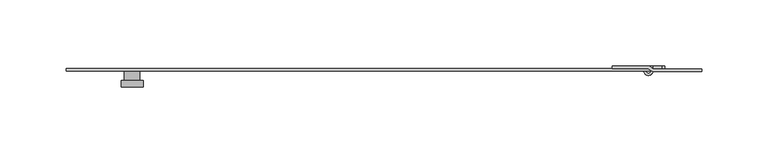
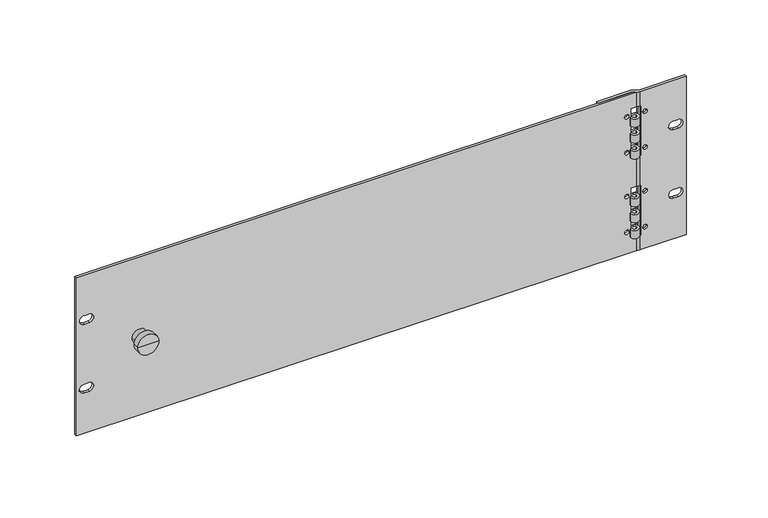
"""IFC4 building model written with IfcOpenShell, lengths in millimetres: proxy geometry, EV 12V 8A F3U : EV 12V 8A F3U."""

from ifc_helpers import new_model, si_unit, point, frame, frame_2d, origin, place, context, project, spatial, polyline, circle_curve, trimmed, segment, composite_curve, outline, extrude, source, transform, mapped, element, save
from ifc_brep_helpers import plane_surface, cylinder_surface, revolved_surface, advanced_brep


def electrical_equipment_e9eb0355(model_context):
    return source(origin(), model_context, "Body", "SolidModel", [
        advanced_brep(
        [(-437.0786498, 0.0, 0.0), (-425.4294198, 0.0, 0.0), (-425.4294198, -7.0, 0.0), (-437.0786498, -7.0, 0.0), (-431.2540348, 0.0, 0.0), (-439.5643578, -12.0, 0.0), (-422.9437118, -12.0, 0.0), (-431.2540348, -12.0, 0.0), (-439.5643578, -7.0, 0.0), (-422.9437118, -7.0, 0.0)],
        [
            (0, 1, circle_curve(frame((-431.2540348, 0.0, 0.0), z_axis=(0.0, -1.0, 0.0), x_axis=(1.0, 0.0, 0.0)), 5.824615)),
            (1, 2),
            (2, 3, circle_curve(frame((-431.2540348, -7.0, 0.0), z_axis=(0.0, 1.0, 0.0), x_axis=(1.0, 0.0, 0.0)), 5.824615)),
            (3, 0),
            (1, 0, circle_curve(frame((-431.2540348, 0.0, 0.0), z_axis=(0.0, -1.0, 0.0), x_axis=(1.0, 0.0, 0.0)), 5.824615)),
            (3, 2, circle_curve(frame((-431.2540348, -7.0, 0.0), z_axis=(0.0, 1.0, 0.0), x_axis=(1.0, 0.0, 0.0)), 5.824615)),
            (4, 1),
            (0, 4),
            (5, 6, circle_curve(frame((-431.2540348, -12.0, 0.0), z_axis=(0.0, -1.0, 0.0), x_axis=(1.0, 0.0, 0.0)), 8.310323)),
            (6, 7),
            (7, 5),
            (6, 5, circle_curve(frame((-431.2540348, -12.0, 0.0), z_axis=(0.0, -1.0, 0.0), x_axis=(1.0, 0.0, 0.0)), 8.310323)),
            (8, 9, circle_curve(frame((-431.2540348, -7.0, 0.0), z_axis=(0.0, -1.0, 0.0), x_axis=(1.0, 0.0, 0.0)), 8.310323)),
            (9, 6),
            (5, 8),
            (9, 8, circle_curve(frame((-431.2540348, -7.0, 0.0), z_axis=(0.0, -1.0, 0.0), x_axis=(1.0, 0.0, 0.0)), 8.310323)),
            (2, 9),
            (8, 3),
        ],
        [
            cylinder_surface(frame((-431.2540348, -12.3877727, 0.0), z_axis=(0.0, 1.0, 0.0), x_axis=(1.0, 0.0, 0.0)), 5.824615),
            plane_surface(frame((-431.2540348, 0.0, 0.0), z_axis=(0.0, 1.0, 0.0), x_axis=(1.0, 0.0, 0.0))),
            plane_surface(frame((-431.2540348, -12.0, 0.0), z_axis=(0.0, -1.0, 0.0), x_axis=(1.0, 0.0, 0.0))),
            cylinder_surface(frame((-431.2540348, -12.3877727, 0.0), z_axis=(0.0, 1.0, 0.0), x_axis=(1.0, 0.0, 0.0)), 8.310323),
            plane_surface(frame((-431.2540348, -7.0, 0.0), z_axis=(0.0, 1.0, 0.0), x_axis=(1.0, 0.0, 0.0))),
        ],
        [
            (0, [[1, 2, 3, 4]]),
            (0, [[5, -4, 6, -2]]),
            (1, [[7, -1, 8]]),
            (1, [[-8, -5, -7]]),
            (2, [[9, 10, 11]]),
            (2, [[12, -11, -10]]),
            (3, [[13, 14, -9, 15]]),
            (3, [[16, -15, -12, -14]]),
            (4, [[-3, 17, -13, 18]]),
            (4, [[-6, -18, -16, -17]]),
        ],
    ),
        extrude(outline(composite_curve([segment(trimmed(circle_curve(frame_2d((-40.5119259, 0.2188638)), 3.4933477), [point((-37.0185782, 0.2188638))], [point((-44.0052735, 0.2188638))], False, "CARTESIAN"), True, "CONTINUOUS"), segment(trimmed(circle_curve(frame_2d((-40.5119259, 0.2188638)), 3.4933477), [point((-44.0052735, 0.2188638))], [point((-37.0185782, 0.2188638))], False, "CARTESIAN"), True, "CONTINUOUS")], self_intersect=False), holes=[composite_curve([segment(trimmed(circle_curve(frame_2d((-40.4945556, 0.2090982)), 1.4915613), [point((-39.0029943, 0.2090982))], [point((-41.9861169, 0.2090982))], True, "CARTESIAN"), True, "CONTINUOUS"), segment(trimmed(circle_curve(frame_2d((-40.4945556, 0.2090982)), 1.4915613), [point((-41.9861169, 0.2090982))], [point((-39.0029943, 0.2090982))], True, "CARTESIAN"), True, "CONTINUOUS")], self_intersect=False)]), frame((0.0, 0.0, -26.5833333), z_axis=(0.0, 0.0, 1.0), x_axis=(1.0, 0.0, 0.0)), (0.0, 0.0, 1.0), 6.6666667),
        extrude(outline(composite_curve([segment(trimmed(circle_curve(frame_2d((-40.5119259, 0.2188638)), 3.4933477), [point((-37.0185782, 0.2188638))], [point((-44.0052735, 0.2188638))], False, "CARTESIAN"), True, "CONTINUOUS"), segment(trimmed(circle_curve(frame_2d((-40.5119259, 0.2188638)), 3.4933477), [point((-44.0052735, 0.2188638))], [point((-37.0185782, 0.2188638))], False, "CARTESIAN"), True, "CONTINUOUS")], self_intersect=False), holes=[composite_curve([segment(trimmed(circle_curve(frame_2d((-40.4945556, 0.2090982)), 1.4915613), [point((-39.0029943, 0.2090982))], [point((-41.9861169, 0.2090982))], True, "CARTESIAN"), True, "CONTINUOUS"), segment(trimmed(circle_curve(frame_2d((-40.4945556, 0.2090982)), 1.4915613), [point((-41.9861169, 0.2090982))], [point((-39.0029943, 0.2090982))], True, "CARTESIAN"), True, "CONTINUOUS")], self_intersect=False)]), frame((0.0, 0.0, -39.9166667), z_axis=(0.0, 0.0, 1.0), x_axis=(1.0, 0.0, 0.0)), (0.0, 0.0, 1.0), 6.6666667),
        extrude(outline(composite_curve([segment(trimmed(circle_curve(frame_2d((-40.5119259, 0.2188638)), 3.4933477), [point((-37.0185782, 0.2188638))], [point((-44.0052735, 0.2188638))], False, "CARTESIAN"), True, "CONTINUOUS"), segment(trimmed(circle_curve(frame_2d((-40.5119259, 0.2188638)), 3.4933477), [point((-44.0052735, 0.2188638))], [point((-37.0185782, 0.2188638))], False, "CARTESIAN"), True, "CONTINUOUS")], self_intersect=False), holes=[composite_curve([segment(trimmed(circle_curve(frame_2d((-40.4945556, 0.2090982)), 1.4915613), [point((-39.0029943, 0.2090982))], [point((-41.9861169, 0.2090982))], True, "CARTESIAN"), True, "CONTINUOUS"), segment(trimmed(circle_curve(frame_2d((-40.4945556, 0.2090982)), 1.4915613), [point((-41.9861169, 0.2090982))], [point((-39.0029943, 0.2090982))], True, "CARTESIAN"), True, "CONTINUOUS")], self_intersect=False)]), frame((0.0, 0.0, -53.25), z_axis=(0.0, 0.0, 1.0), x_axis=(1.0, 0.0, 0.0)), (0.0, 0.0, 1.0), 6.6666667),
        extrude(outline(composite_curve([segment(polyline([(-53.25, -40.5), (-53.25, -30.25)]), True, "CONTINUOUS"), segment(trimmed(circle_curve(frame_2d((-51.25, -30.25)), 2.0), [point((-53.25, -30.25))], [point((-51.25, -28.25))], False, "CARTESIAN"), True, "CONTINUOUS"), segment(polyline([(-51.25, -28.25), (-15.25, -28.25)]), True, "CONTINUOUS"), segment(trimmed(circle_curve(frame_2d((-15.25, -30.25)), 2.0), [point((-15.25, -28.25))], [point((-13.25, -30.25))], False, "CARTESIAN"), True, "CONTINUOUS"), segment(polyline([(-13.25, -30.25), (-13.25, -36.75), (-19.9166667, -36.75), (-19.9166667, -40.5), (-26.5833333, -40.5), (-26.5833333, -36.75), (-33.25, -36.75), (-33.25, -40.5), (-39.9166667, -40.5), (-39.9166667, -36.75), (-46.5833333, -36.75), (-46.5833333, -40.5), (-53.25, -40.5)]), True, "CONTINUOUS")], self_intersect=False), holes=[composite_curve([segment(trimmed(circle_curve(frame_2d((-18.2548214, -32.5012955)), 1.7100649), [point((-18.2548214, -30.7912306))], [point((-18.2548214, -34.2113605))], True, "CARTESIAN"), True, "CONTINUOUS"), segment(trimmed(circle_curve(frame_2d((-18.2548214, -32.5012955)), 1.7100649), [point((-18.2548214, -34.2113605))], [point((-18.2548214, -30.7912306))], True, "CARTESIAN"), True, "CONTINUOUS")], self_intersect=False), composite_curve([segment(trimmed(circle_curve(frame_2d((-48.2451786, -32.5012955)), 1.7100649), [point((-48.2451786, -30.7912306))], [point((-48.2451786, -34.2113605))], True, "CARTESIAN"), True, "CONTINUOUS"), segment(trimmed(circle_curve(frame_2d((-48.2451786, -32.5012955)), 1.7100649), [point((-48.2451786, -34.2113605))], [point((-48.2451786, -30.7912306))], True, "CARTESIAN"), True, "CONTINUOUS")], self_intersect=False), composite_curve([segment(trimmed(circle_curve(frame_2d((-33.25, -32.5012955)), 1.7100649), [point((-33.25, -30.7912306))], [point((-33.25, -34.2113605))], True, "CARTESIAN"), True, "CONTINUOUS"), segment(trimmed(circle_curve(frame_2d((-33.25, -32.5012955)), 1.7100649), [point((-33.25, -34.2113605))], [point((-33.25, -30.7912306))], True, "CARTESIAN"), True, "CONTINUOUS")], self_intersect=False)]), frame((0.0, 1.701903, 0.0), z_axis=(0.0, 1.0, 0.0), x_axis=(0.0, 0.0, 1.0)), (0.0, 0.0, 1.0), 2.0),
        extrude(outline(composite_curve([segment(trimmed(circle_curve(frame_2d((-40.5119259, 0.2188638)), 3.4933477), [point((-37.0185782, 0.2188638))], [point((-44.0052735, 0.2188638))], False, "CARTESIAN"), True, "CONTINUOUS"), segment(trimmed(circle_curve(frame_2d((-40.5119259, 0.2188638)), 3.4933477), [point((-44.0052735, 0.2188638))], [point((-37.0185782, 0.2188638))], False, "CARTESIAN"), True, "CONTINUOUS")], self_intersect=False), holes=[composite_curve([segment(trimmed(circle_curve(frame_2d((-40.4945556, 0.2090982)), 1.4915613), [point((-39.0029943, 0.2090982))], [point((-41.9861169, 0.2090982))], True, "CARTESIAN"), True, "CONTINUOUS"), segment(trimmed(circle_curve(frame_2d((-40.4945556, 0.2090982)), 1.4915613), [point((-41.9861169, 0.2090982))], [point((-39.0029943, 0.2090982))], True, "CARTESIAN"), True, "CONTINUOUS")], self_intersect=False)]), frame((0.0, 0.0, 39.9166667), z_axis=(0.0, 0.0, 1.0), x_axis=(1.0, 0.0, 0.0)), (0.0, 0.0, 1.0), 6.6666667),
        extrude(outline(composite_curve([segment(trimmed(circle_curve(frame_2d((-40.5119259, 0.2188638)), 3.4933477), [point((-37.0185782, 0.2188638))], [point((-44.0052735, 0.2188638))], False, "CARTESIAN"), True, "CONTINUOUS"), segment(trimmed(circle_curve(frame_2d((-40.5119259, 0.2188638)), 3.4933477), [point((-44.0052735, 0.2188638))], [point((-37.0185782, 0.2188638))], False, "CARTESIAN"), True, "CONTINUOUS")], self_intersect=False), holes=[composite_curve([segment(trimmed(circle_curve(frame_2d((-40.4945556, 0.2090982)), 1.4915613), [point((-39.0029943, 0.2090982))], [point((-41.9861169, 0.2090982))], True, "CARTESIAN"), True, "CONTINUOUS"), segment(trimmed(circle_curve(frame_2d((-40.4945556, 0.2090982)), 1.4915613), [point((-41.9861169, 0.2090982))], [point((-39.0029943, 0.2090982))], True, "CARTESIAN"), True, "CONTINUOUS")], self_intersect=False)]), frame((0.0, 0.0, 26.5833333), z_axis=(0.0, 0.0, 1.0), x_axis=(1.0, 0.0, 0.0)), (0.0, 0.0, 1.0), 6.6666667),
        extrude(outline(composite_curve([segment(trimmed(circle_curve(frame_2d((-40.5119259, 0.2188638)), 3.4933477), [point((-37.0185782, 0.2188638))], [point((-44.0052735, 0.2188638))], False, "CARTESIAN"), True, "CONTINUOUS"), segment(trimmed(circle_curve(frame_2d((-40.5119259, 0.2188638)), 3.4933477), [point((-44.0052735, 0.2188638))], [point((-37.0185782, 0.2188638))], False, "CARTESIAN"), True, "CONTINUOUS")], self_intersect=False), holes=[composite_curve([segment(trimmed(circle_curve(frame_2d((-40.4945556, 0.2090982)), 1.4915613), [point((-39.0029943, 0.2090982))], [point((-41.9861169, 0.2090982))], True, "CARTESIAN"), True, "CONTINUOUS"), segment(trimmed(circle_curve(frame_2d((-40.4945556, 0.2090982)), 1.4915613), [point((-41.9861169, 0.2090982))], [point((-39.0029943, 0.2090982))], True, "CARTESIAN"), True, "CONTINUOUS")], self_intersect=False)]), frame((0.0, 0.0, 13.25), z_axis=(0.0, 0.0, 1.0), x_axis=(1.0, 0.0, 0.0)), (0.0, 0.0, 1.0), 6.6666667),
        extrude(outline(composite_curve([segment(polyline([(13.25, -40.5), (13.25, -30.25)]), True, "CONTINUOUS"), segment(trimmed(circle_curve(frame_2d((15.25, -30.25)), 2.0), [point((13.25, -30.25))], [point((15.25, -28.25))], False, "CARTESIAN"), True, "CONTINUOUS"), segment(polyline([(15.25, -28.25), (51.25, -28.25)]), True, "CONTINUOUS"), segment(trimmed(circle_curve(frame_2d((51.25, -30.25)), 2.0), [point((51.25, -28.25))], [point((53.25, -30.25))], False, "CARTESIAN"), True, "CONTINUOUS"), segment(polyline([(53.25, -30.25), (53.25, -36.75), (46.5833333, -36.75), (46.5833333, -40.5), (39.9166667, -40.5), (39.9166667, -36.75), (33.25, -36.75), (33.25, -40.5), (26.5833333, -40.5), (26.5833333, -36.75), (19.9166667, -36.75), (19.9166667, -40.5), (13.25, -40.5)]), True, "CONTINUOUS")], self_intersect=False), holes=[composite_curve([segment(trimmed(circle_curve(frame_2d((48.2451786, -32.5012955)), 1.7100649), [point((48.2451786, -30.7912306))], [point((48.2451786, -34.2113605))], True, "CARTESIAN"), True, "CONTINUOUS"), segment(trimmed(circle_curve(frame_2d((48.2451786, -32.5012955)), 1.7100649), [point((48.2451786, -34.2113605))], [point((48.2451786, -30.7912306))], True, "CARTESIAN"), True, "CONTINUOUS")], self_intersect=False), composite_curve([segment(trimmed(circle_curve(frame_2d((18.2548214, -32.5012955)), 1.7100649), [point((18.2548214, -30.7912306))], [point((18.2548214, -34.2113605))], True, "CARTESIAN"), True, "CONTINUOUS"), segment(trimmed(circle_curve(frame_2d((18.2548214, -32.5012955)), 1.7100649), [point((18.2548214, -34.2113605))], [point((18.2548214, -30.7912306))], True, "CARTESIAN"), True, "CONTINUOUS")], self_intersect=False), composite_curve([segment(trimmed(circle_curve(frame_2d((33.25, -32.5012955)), 1.7100649), [point((33.25, -30.7912306))], [point((33.25, -34.2113605))], True, "CARTESIAN"), True, "CONTINUOUS"), segment(trimmed(circle_curve(frame_2d((33.25, -32.5012955)), 1.7100649), [point((33.25, -34.2113605))], [point((33.25, -30.7912306))], True, "CARTESIAN"), True, "CONTINUOUS")], self_intersect=False)]), frame((0.0, 1.701903, 0.0), z_axis=(0.0, 1.0, 0.0), x_axis=(0.0, 0.0, 1.0)), (0.0, 0.0, 1.0), 2.0),
        advanced_brep(
        [(0.0, -0.298097, -66.0), (0.0, -0.298097, 66.0), (-36.4715729, -0.298097, 66.0), (-36.4715729, -0.298097, 54.1), (-35.6, -0.298097, 54.1), (-35.6, -0.298097, 12.4), (-36.4715729, -0.298097, 12.4), (-36.4715729, -0.298097, -12.4), (-35.6, -0.298097, -12.4), (-35.6, -0.298097, -54.1), (-36.4715729, -0.298097, -54.1), (-36.4715729, -0.298097, -66.0), (-6.3, -0.298097, 32.1), (-6.3, -0.298097, 25.0), (-10.2, -0.298097, 25.0), (-10.2, -0.298097, 32.1), (-6.3, -0.298097, -25.1), (-6.3, -0.298097, -32.2), (-10.2, -0.298097, -32.2), (-10.2, -0.298097, -25.1), (-34.2113605, -0.298097, 48.2451786), (-30.7912306, -0.298097, 48.2451786), (-30.7912306, -0.298097, 18.2548214), (-34.2113605, -0.298097, 18.2548214), (-34.2113605, -0.298097, -18.2548214), (-30.7912306, -0.298097, -18.2548214), (-34.2113605, -0.298097, -48.2451786), (-30.7912306, -0.298097, -48.2451786), (0.0, 1.701903, 66.0), (0.0, 1.701903, -66.0), (-36.4715729, 1.701903, -66.0), (-36.4715729, 1.701903, -54.1), (-35.6, 1.701903, -54.1), (-35.6, 1.701903, -12.4), (-36.4715729, 1.701903, -12.4), (-36.4715729, 1.701903, 12.4), (-35.6, 1.701903, 12.4), (-35.6, 1.701903, 54.1), (-36.4715729, 1.701903, 54.1), (-36.4715729, 1.701903, 66.0), (-6.3, 1.701903, 32.1), (-10.2, 1.701903, 32.1), (-10.2, 1.701903, 25.0), (-6.3, 1.701903, 25.0), (-6.3, 1.701903, -25.1), (-10.2, 1.701903, -25.1), (-10.2, 1.701903, -32.2), (-6.3, 1.701903, -32.2), (-34.2113605, 1.701903, 48.2451786), (-30.7912306, 1.701903, 48.2451786), (-30.7912306, 1.701903, 18.2548214), (-34.2113605, 1.701903, 18.2548214), (-34.2113605, 1.701903, -18.2548214), (-30.7912306, 1.701903, -18.2548214), (-34.2113605, 1.701903, -48.2451786), (-30.7912306, 1.701903, -48.2451786), (-39.7523743, 1.2993368, -66.0), (-41.104087, 2.0, -66.0), (-67.9996699, 2.0, -66.0), (-67.9996699, 4.0, -66.0), (-41.2549513, 4.0, -66.0), (-38.2161528, 2.582985, -66.0), (-38.2161528, 2.582985, 66.0), (-41.2549513, 4.0, 66.0), (-67.9996699, 4.0, 66.0), (-67.9996699, 2.0, 66.0), (-41.104087, 2.0, 66.0), (-39.7523743, 1.2993368, 66.0), (-53.8, 4.0, 54.1), (-41.2549513, 4.0, 54.1), (-38.2161528, 2.582985, 54.1), (-39.7523743, 1.2993368, 54.1), (-41.104087, 2.0, 54.1), (-53.8, 2.0, 54.1), (-41.104087, 2.0, -54.1), (-53.8, 2.0, -54.1), (-53.8, 2.0, -12.4), (-41.104087, 2.0, -12.4), (-41.104087, 2.0, 12.4), (-53.8, 2.0, 12.4), (-53.8, 4.0, 12.4), (-41.2549513, 4.0, 12.4), (-41.2549513, 4.0, -12.4), (-53.8, 4.0, -12.4), (-53.8, 4.0, -54.1), (-41.2549513, 4.0, -54.1), (-38.2161528, 2.582985, -12.4), (-39.7523743, 1.2993368, -12.4), (-39.7523743, 1.2993368, 12.4), (-38.2161528, 2.582985, 12.4), (-39.7523743, 1.2993368, -54.1), (-38.2161528, 2.582985, -54.1)],
        [
            (0, 1),
            (1, 2),
            (2, 3),
            (3, 4),
            (4, 5),
            (5, 6),
            (6, 7),
            (7, 8),
            (8, 9),
            (9, 10),
            (10, 11),
            (11, 0),
            (12, 13, circle_curve(frame((-6.3, -0.298097, 28.55), z_axis=(0.0, 1.0, 0.0), x_axis=(-1.0, 0.0, 0.0)), 3.55)),
            (13, 14),
            (14, 15, circle_curve(frame((-10.2, -0.298097, 28.55), z_axis=(0.0, 1.0, 0.0), x_axis=(-1.0, 0.0, 0.0)), 3.55)),
            (15, 12),
            (16, 17, circle_curve(frame((-6.3, -0.298097, -28.65), z_axis=(0.0, 1.0, 0.0), x_axis=(-1.0, 0.0, 0.0)), 3.55)),
            (17, 18),
            (18, 19, circle_curve(frame((-10.2, -0.298097, -28.65), z_axis=(0.0, 1.0, 0.0), x_axis=(-1.0, 0.0, 0.0)), 3.55)),
            (19, 16),
            (20, 21, circle_curve(frame((-32.5012955, -0.298097, 48.2451786), z_axis=(0.0, 1.0, 0.0), x_axis=(-1.0, 0.0, 0.0)), 1.7100649)),
            (21, 20, circle_curve(frame((-32.5012955, -0.298097, 48.2451786), z_axis=(0.0, 1.0, 0.0), x_axis=(-1.0, 0.0, 0.0)), 1.7100649)),
            (22, 23, circle_curve(frame((-32.5012955, -0.298097, 18.2548214), z_axis=(0.0, 1.0, 0.0), x_axis=(-1.0, 0.0, 0.0)), 1.7100649)),
            (23, 22, circle_curve(frame((-32.5012955, -0.298097, 18.2548214), z_axis=(0.0, 1.0, 0.0), x_axis=(-1.0, 0.0, 0.0)), 1.7100649)),
            (24, 25, circle_curve(frame((-32.5012955, -0.298097, -18.2548214), z_axis=(0.0, 1.0, 0.0), x_axis=(-1.0, 0.0, 0.0)), 1.7100649)),
            (25, 24, circle_curve(frame((-32.5012955, -0.298097, -18.2548214), z_axis=(0.0, 1.0, 0.0), x_axis=(-1.0, 0.0, 0.0)), 1.7100649)),
            (26, 27, circle_curve(frame((-32.5012955, -0.298097, -48.2451786), z_axis=(0.0, 1.0, 0.0), x_axis=(-1.0, 0.0, 0.0)), 1.7100649)),
            (27, 26, circle_curve(frame((-32.5012955, -0.298097, -48.2451786), z_axis=(0.0, 1.0, 0.0), x_axis=(-1.0, 0.0, 0.0)), 1.7100649)),
            (28, 29),
            (29, 30),
            (30, 31),
            (31, 32),
            (32, 33),
            (33, 34),
            (34, 35),
            (35, 36),
            (36, 37),
            (37, 38),
            (38, 39),
            (39, 28),
            (40, 41),
            (41, 42, circle_curve(frame((-10.2, 1.701903, 28.55), z_axis=(0.0, -1.0, 0.0), x_axis=(-1.0, 0.0, 0.0)), 3.55)),
            (42, 43),
            (43, 40, circle_curve(frame((-6.3, 1.701903, 28.55), z_axis=(0.0, -1.0, 0.0), x_axis=(-1.0, 0.0, 0.0)), 3.55)),
            (44, 45),
            (45, 46, circle_curve(frame((-10.2, 1.701903, -28.65), z_axis=(0.0, -1.0, 0.0), x_axis=(-1.0, 0.0, 0.0)), 3.55)),
            (46, 47),
            (47, 44, circle_curve(frame((-6.3, 1.701903, -28.65), z_axis=(0.0, -1.0, 0.0), x_axis=(-1.0, 0.0, 0.0)), 3.55)),
            (48, 49, circle_curve(frame((-32.5012955, 1.701903, 48.2451786), z_axis=(0.0, -1.0, 0.0), x_axis=(-1.0, 0.0, 0.0)), 1.7100649)),
            (49, 48, circle_curve(frame((-32.5012955, 1.701903, 48.2451786), z_axis=(0.0, -1.0, 0.0), x_axis=(-1.0, 0.0, 0.0)), 1.7100649)),
            (50, 51, circle_curve(frame((-32.5012955, 1.701903, 18.2548214), z_axis=(0.0, -1.0, 0.0), x_axis=(-1.0, 0.0, 0.0)), 1.7100649)),
            (51, 50, circle_curve(frame((-32.5012955, 1.701903, 18.2548214), z_axis=(0.0, -1.0, 0.0), x_axis=(-1.0, 0.0, 0.0)), 1.7100649)),
            (52, 53, circle_curve(frame((-32.5012955, 1.701903, -18.2548214), z_axis=(0.0, -1.0, 0.0), x_axis=(-1.0, 0.0, 0.0)), 1.7100649)),
            (53, 52, circle_curve(frame((-32.5012955, 1.701903, -18.2548214), z_axis=(0.0, -1.0, 0.0), x_axis=(-1.0, 0.0, 0.0)), 1.7100649)),
            (54, 55, circle_curve(frame((-32.5012955, 1.701903, -48.2451786), z_axis=(0.0, -1.0, 0.0), x_axis=(-1.0, 0.0, 0.0)), 1.7100649)),
            (55, 54, circle_curve(frame((-32.5012955, 1.701903, -48.2451786), z_axis=(0.0, -1.0, 0.0), x_axis=(-1.0, 0.0, 0.0)), 1.7100649)),
            (0, 29),
            (28, 1),
            (11, 56, circle_curve(frame((-36.4715729, 3.8696663, -66.0), z_axis=(0.0, 0.0, -1.0), x_axis=(1.0, 0.0, 0.0)), 4.1677634)),
            (56, 57, circle_curve(frame((-41.1795191, 0.2002898, -66.0), z_axis=(0.0, 0.0, 1.0), x_axis=(1.0, 0.0, 0.0)), 1.8012903)),
            (57, 58),
            (58, 59),
            (59, 60),
            (60, 61, circle_curve(frame((-41.2549513, 0.0331303, -66.0), z_axis=(0.0, 0.0, -1.0), x_axis=(1.0, 0.0, 0.0)), 3.9668697)),
            (61, 30, circle_curve(frame((-36.4715729, 3.8696152, -66.0), z_axis=(0.0, 0.0, 1.0), x_axis=(1.0, 0.0, 0.0)), 2.1677122)),
            (39, 62, circle_curve(frame((-36.4715729, 3.8696152, 66.0), z_axis=(0.0, 0.0, -1.0), x_axis=(1.0, 0.0, 0.0)), 2.1677122)),
            (62, 63, circle_curve(frame((-41.2549513, 0.0331303, 66.0), z_axis=(0.0, 0.0, 1.0), x_axis=(1.0, 0.0, 0.0)), 3.9668697)),
            (63, 64),
            (64, 65),
            (65, 66),
            (66, 67, circle_curve(frame((-41.1795191, 0.2002898, 66.0), z_axis=(0.0, 0.0, -1.0), x_axis=(1.0, 0.0, 0.0)), 1.8012903)),
            (67, 2, circle_curve(frame((-36.4715729, 3.8696663, 66.0), z_axis=(0.0, 0.0, 1.0), x_axis=(1.0, 0.0, 0.0)), 4.1677634)),
            (15, 41),
            (40, 12),
            (14, 42),
            (13, 43),
            (19, 45),
            (44, 16),
            (18, 46),
            (17, 47),
            (68, 69),
            (69, 70, circle_curve(frame((-41.2549513, 0.0331303, 54.1), z_axis=(0.0, 0.0, -1.0), x_axis=(1.0, 0.0, 0.0)), 3.9668697)),
            (70, 38, circle_curve(frame((-36.4715729, 3.8696152, 54.1), z_axis=(0.0, 0.0, 1.0), x_axis=(1.0, 0.0, 0.0)), 2.1677122)),
            (37, 4),
            (3, 71, circle_curve(frame((-36.4715729, 3.8696663, 54.1), z_axis=(0.0, 0.0, -1.0), x_axis=(1.0, 0.0, 0.0)), 4.1677634)),
            (71, 72, circle_curve(frame((-41.1795191, 0.2002898, 54.1), z_axis=(0.0, 0.0, 1.0), x_axis=(1.0, 0.0, 0.0)), 1.8012903)),
            (72, 73),
            (73, 68),
            (72, 66),
            (65, 58),
            (57, 74),
            (74, 75),
            (75, 76),
            (76, 77),
            (77, 78),
            (78, 79),
            (79, 73),
            (71, 67),
            (70, 62),
            (69, 63),
            (68, 80),
            (80, 81),
            (81, 82),
            (82, 83),
            (83, 84),
            (84, 85),
            (85, 60),
            (59, 64),
            (82, 86, circle_curve(frame((-41.2549513, 0.0331303, -12.4), z_axis=(0.0, 0.0, -1.0), x_axis=(1.0, 0.0, 0.0)), 3.9668697)),
            (86, 34, circle_curve(frame((-36.4715729, 3.8696152, -12.4), z_axis=(0.0, 0.0, 1.0), x_axis=(1.0, 0.0, 0.0)), 2.1677122)),
            (33, 8),
            (7, 87, circle_curve(frame((-36.4715729, 3.8696663, -12.4), z_axis=(0.0, 0.0, -1.0), x_axis=(1.0, 0.0, 0.0)), 4.1677634)),
            (87, 77, circle_curve(frame((-41.1795191, 0.2002898, -12.4), z_axis=(0.0, 0.0, 1.0), x_axis=(1.0, 0.0, 0.0)), 1.8012903)),
            (76, 83),
            (78, 88, circle_curve(frame((-41.1795191, 0.2002898, 12.4), z_axis=(0.0, 0.0, -1.0), x_axis=(1.0, 0.0, 0.0)), 1.8012903)),
            (88, 6, circle_curve(frame((-36.4715729, 3.8696663, 12.4), z_axis=(0.0, 0.0, 1.0), x_axis=(1.0, 0.0, 0.0)), 4.1677634)),
            (5, 36),
            (35, 89, circle_curve(frame((-36.4715729, 3.8696152, 12.4), z_axis=(0.0, 0.0, -1.0), x_axis=(1.0, 0.0, 0.0)), 2.1677122)),
            (89, 81, circle_curve(frame((-41.2549513, 0.0331303, 12.4), z_axis=(0.0, 0.0, 1.0), x_axis=(1.0, 0.0, 0.0)), 3.9668697)),
            (80, 79),
            (87, 88),
            (86, 89),
            (74, 90, circle_curve(frame((-41.1795191, 0.2002898, -54.1), z_axis=(0.0, 0.0, -1.0), x_axis=(1.0, 0.0, 0.0)), 1.8012903)),
            (90, 10, circle_curve(frame((-36.4715729, 3.8696663, -54.1), z_axis=(0.0, 0.0, 1.0), x_axis=(1.0, 0.0, 0.0)), 4.1677634)),
            (9, 32),
            (31, 91, circle_curve(frame((-36.4715729, 3.8696152, -54.1), z_axis=(0.0, 0.0, -1.0), x_axis=(1.0, 0.0, 0.0)), 2.1677122)),
            (91, 85, circle_curve(frame((-41.2549513, 0.0331303, -54.1), z_axis=(0.0, 0.0, 1.0), x_axis=(1.0, 0.0, 0.0)), 3.9668697)),
            (84, 75),
            (56, 90),
            (61, 91),
            (21, 49),
            (48, 20),
            (23, 51),
            (50, 22),
            (25, 53),
            (52, 24),
            (27, 55),
            (54, 26),
        ],
        [
            plane_surface(frame((0.0, -0.298097, 54.1), z_axis=(0.0, -1.0, 0.0), x_axis=(0.0, 0.0, 1.0))),
            plane_surface(frame((0.0, 1.701903, 54.1), z_axis=(0.0, 1.0, 0.0), x_axis=(0.0, 0.0, -1.0))),
            plane_surface(frame((0.0, 1.701903, 66.0), z_axis=(1.0, 0.0, 0.0), x_axis=(0.0, -1.0, 0.0))),
            plane_surface(frame((0.0, 1.701903, -66.0), z_axis=(0.0, 0.0, -1.0), x_axis=(0.0, -1.0, 0.0))),
            plane_surface(frame((-35.6, 1.701903, 66.0), z_axis=(0.0, 0.0, 1.0), x_axis=(0.0, -1.0, 0.0))),
            plane_surface(frame((-6.3, 1.701903, 32.1), z_axis=(0.0, 0.0, -1.0), x_axis=(0.0, -1.0, 0.0))),
            revolved_surface(polyline([(-13.75, -0.2980970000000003, 28.55), (-13.75, 1.7019029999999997, 28.55)]), (-10.2, 4.0, 28.55), (0.0, -1.0, 0.0)),
            plane_surface(frame((-10.2, 1.701903, 25.0), z_axis=(0.0, 0.0, 1.0), x_axis=(0.0, -1.0, 0.0))),
            revolved_surface(polyline([(-9.85, -0.2980970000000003, 28.55), (-9.85, 1.7019029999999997, 28.55)]), (-6.3, 4.0, 28.55), (0.0, -1.0, 0.0)),
            plane_surface(frame((-6.3, 1.701903, -25.1), z_axis=(0.0, 0.0, -1.0), x_axis=(0.0, -1.0, 0.0))),
            revolved_surface(polyline([(-13.75, -0.2980970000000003, -28.65), (-13.75, 1.7019029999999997, -28.65)]), (-10.2, 4.0, -28.65), (0.0, -1.0, 0.0)),
            plane_surface(frame((-10.2, 1.701903, -32.2), z_axis=(0.0, 0.0, 1.0), x_axis=(0.0, -1.0, 0.0))),
            revolved_surface(polyline([(-9.85, -0.2980970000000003, -28.65), (-9.85, 1.7019029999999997, -28.65)]), (-6.3, 4.0, -28.65), (0.0, -1.0, 0.0)),
            plane_surface(frame((-53.8, 4.0, 54.1), z_axis=(0.0, 0.0, -1.0), x_axis=(0.0, 1.0, 0.0))),
            plane_surface(frame((-53.8, 2.0, 66.0), z_axis=(0.0, -1.0, 0.0), x_axis=(0.0, 0.0, -1.0))),
            revolved_surface(polyline([(-39.3782288, 0.2002898, 54.1), (-39.3782288, 0.2002898, 66.0)]), (-41.1795191, 0.2002898, 54.1), (0.0, 0.0, -1.0)),
            cylinder_surface(frame((-36.4715729, 3.8696663, 54.1), z_axis=(0.0, 0.0, 1.0), x_axis=(1.0, 0.0, 0.0)), 4.1677634),
            revolved_surface(polyline([(-34.3038607, 3.8696152, 54.1), (-34.3038607, 3.8696152, 66.0)]), (-36.4715729, 3.8696152, 54.1), (0.0, 0.0, -1.0)),
            cylinder_surface(frame((-41.2549513, 0.0331303, 54.1), z_axis=(0.0, 0.0, 1.0), x_axis=(1.0, 0.0, 0.0)), 3.9668697),
            plane_surface(frame((-41.2549513, 4.0, 66.0), z_axis=(0.0, 1.0, 0.0), x_axis=(0.0, 0.0, -1.0))),
            plane_surface(frame((-53.8, 4.0, -12.4), z_axis=(0.0, 0.0, -1.0), x_axis=(0.0, 1.0, 0.0))),
            plane_surface(frame((-53.8, 4.0, 12.4), z_axis=(0.0, 0.0, 1.0), x_axis=(0.0, -1.0, 0.0))),
            revolved_surface(polyline([(-39.3782288, 0.2002898, -12.4), (-39.3782288, 0.2002898, 12.4)]), (-41.1795191, 0.2002898, -12.4), (0.0, 0.0, -1.0)),
            cylinder_surface(frame((-36.4715729, 3.8696663, -12.4), z_axis=(0.0, 0.0, 1.0), x_axis=(1.0, 0.0, 0.0)), 4.1677634),
            revolved_surface(polyline([(-34.3038607, 3.8696152, -12.4), (-34.3038607, 3.8696152, 12.4)]), (-36.4715729, 3.8696152, -12.4), (0.0, 0.0, -1.0)),
            cylinder_surface(frame((-41.2549513, 0.0331303, -12.4), z_axis=(0.0, 0.0, 1.0), x_axis=(1.0, 0.0, 0.0)), 3.9668697),
            plane_surface(frame((-53.8, 4.0, -54.1), z_axis=(0.0, 0.0, 1.0), x_axis=(0.0, -1.0, 0.0))),
            revolved_surface(polyline([(-39.3782288, 0.2002898, -66.0), (-39.3782288, 0.2002898, -54.1)]), (-41.1795191, 0.2002898, -66.0), (0.0, 0.0, -1.0)),
            cylinder_surface(frame((-36.4715729, 3.8696663, -66.0), z_axis=(0.0, 0.0, 1.0), x_axis=(1.0, 0.0, 0.0)), 4.1677634),
            revolved_surface(polyline([(-34.3038607, 3.8696152, -66.0), (-34.3038607, 3.8696152, -54.1)]), (-36.4715729, 3.8696152, -66.0), (0.0, 0.0, -1.0)),
            cylinder_surface(frame((-41.2549513, 0.0331303, -66.0), z_axis=(0.0, 0.0, 1.0), x_axis=(1.0, 0.0, 0.0)), 3.9668697),
            plane_surface(frame((-53.8, 4.0, 66.0), z_axis=(1.0, 0.0, 0.0), x_axis=(0.0, -1.0, 0.0))),
            plane_surface(frame((-67.9996699, 4.0, -66.0), z_axis=(-1.0, 0.0, 0.0), x_axis=(0.0, -1.0, 0.0))),
            plane_surface(frame((-35.6, 1.701903, -66.0), z_axis=(-1.0, 0.0, 0.0), x_axis=(0.0, -1.0, 0.0))),
            revolved_surface(polyline([(-34.2113604, -0.2980970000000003, 48.2451786), (-34.2113604, 1.7019029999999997, 48.2451786)]), (-32.5012955, 4.0, 48.2451786), (0.0, -1.0, 0.0)),
            revolved_surface(polyline([(-34.2113604, -0.2980970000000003, 18.2548214), (-34.2113604, 1.7019029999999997, 18.2548214)]), (-32.5012955, 4.0, 18.2548214), (0.0, -1.0, 0.0)),
            revolved_surface(polyline([(-34.2113604, -0.2980970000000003, -18.2548214), (-34.2113604, 1.7019029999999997, -18.2548214)]), (-32.5012955, 4.0, -18.2548214), (0.0, -1.0, 0.0)),
            revolved_surface(polyline([(-34.2113604, -0.2980970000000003, -48.2451786), (-34.2113604, 1.7019029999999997, -48.2451786)]), (-32.5012955, 4.0, -48.2451786), (0.0, -1.0, 0.0)),
        ],
        [
            (0, [[1, 2, 3, 4, 5, 6, 7, 8, 9, 10, 11, 12], [13, 14, 15, 16], [17, 18, 19, 20], [21, 22], [23, 24], [25, 26], [27, 28]]),
            (1, [[29, 30, 31, 32, 33, 34, 35, 36, 37, 38, 39, 40], [41, 42, 43, 44], [45, 46, 47, 48], [49, 50], [51, 52], [53, 54], [55, 56]]),
            (2, [[-1, 57, -29, 58]]),
            (3, [[-57, -12, 59, 60, 61, 62, 63, 64, 65, -30]]),
            (4, [[-58, -40, 66, 67, 68, 69, 70, 71, 72, -2]]),
            (5, [[-16, 73, -41, 74]]),
            (6, [[-15, 75, -42, -73]]),
            (7, [[-14, 76, -43, -75]]),
            (8, [[-13, -74, -44, -76]]),
            (9, [[-20, 77, -45, 78]]),
            (10, [[-19, 79, -46, -77]]),
            (11, [[-18, 80, -47, -79]]),
            (12, [[-17, -78, -48, -80]]),
            (13, [[81, 82, 83, -38, 84, -4, 85, 86, 87, 88]]),
            (14, [[-87, 89, -70, 90, -61, 91, 92, 93, 94, 95, 96, 97]]),
            (15, [[-86, 98, -71, -89]]),
            (16, [[-85, -3, -72, -98]]),
            (17, [[-83, 99, -66, -39]]),
            (18, [[-82, 100, -67, -99]]),
            (19, [[-81, 101, 102, 103, 104, 105, 106, 107, -63, 108, -68, -100]]),
            (20, [[-104, 109, 110, -34, 111, -8, 112, 113, -94, 114]]),
            (21, [[-96, 115, 116, -6, 117, -36, 118, 119, -102, 120]]),
            (22, [[-113, 121, -115, -95]]),
            (23, [[-112, -7, -116, -121]]),
            (24, [[-110, 122, -118, -35]]),
            (25, [[-109, -103, -119, -122]]),
            (26, [[-92, 123, 124, -10, 125, -32, 126, 127, -106, 128]]),
            (27, [[-60, 129, -123, -91]]),
            (28, [[-59, -11, -124, -129]]),
            (29, [[-65, 130, -126, -31]]),
            (30, [[-64, -107, -127, -130]]),
            (31, [[-93, -128, -105, -114]]),
            (31, [[-97, -120, -101, -88]]),
            (32, [[-90, -69, -108, -62]]),
            (33, [[-84, -37, -117, -5]]),
            (33, [[-111, -33, -125, -9]]),
            (34, [[-22, 131, -49, 132]]),
            (34, [[-21, -132, -50, -131]]),
            (35, [[-24, 133, -51, 134]]),
            (35, [[-23, -134, -52, -133]]),
            (36, [[-26, 135, -53, 136]]),
            (36, [[-25, -136, -54, -135]]),
            (37, [[-28, 137, -55, 138]]),
            (37, [[-27, -138, -56, -137]]),
        ],
    ),
        extrude(outline(polyline([(66.0, -38.9496699), (66.0, -481.2496699), (-66.0, -481.2496699), (-66.0, -38.9496699), (-54.1, -38.9496699), (-54.1, -43.6496699), (-12.4, -43.6496699), (-12.4, -38.9496699), (12.4, -38.9496699), (12.4, -43.6496699), (54.1, -43.6496699), (54.1, -38.9496699), (66.0, -38.9496699)]), holes=[composite_curve([segment(trimmed(circle_curve(frame_2d((28.55, -471.0496699)), 3.55), [point((32.1, -471.0496699))], [point((25.0, -471.0496699))], True, "CARTESIAN"), True, "CONTINUOUS"), segment(polyline([(25.0, -471.0496699), (25.0, -474.9496699)]), True, "CONTINUOUS"), segment(trimmed(circle_curve(frame_2d((28.55, -474.9496699)), 3.55), [point((25.0, -474.9496699))], [point((32.1, -474.9496699))], True, "CARTESIAN"), True, "CONTINUOUS"), segment(polyline([(32.1, -474.9496699), (32.1, -471.0496699)]), True, "CONTINUOUS")], self_intersect=False), composite_curve([segment(trimmed(circle_curve(frame_2d((-28.65, -471.0496699)), 3.55), [point((-25.1, -471.0496699))], [point((-32.2, -471.0496699))], True, "CARTESIAN"), True, "CONTINUOUS"), segment(polyline([(-32.2, -471.0496699), (-32.2, -474.9496699)]), True, "CONTINUOUS"), segment(trimmed(circle_curve(frame_2d((-28.65, -474.9496699)), 3.55), [point((-32.2, -474.9496699))], [point((-25.1, -474.9496699))], True, "CARTESIAN"), True, "CONTINUOUS"), segment(polyline([(-25.1, -474.9496699), (-25.1, -471.0496699)]), True, "CONTINUOUS")], self_intersect=False), composite_curve([segment(trimmed(circle_curve(frame_2d((48.2451786, -46.7535363)), 1.7100649), [point((48.2451786, -48.4636013))], [point((48.2451786, -45.0434714))], True, "CARTESIAN"), True, "CONTINUOUS"), segment(trimmed(circle_curve(frame_2d((48.2451786, -46.7535363)), 1.7100649), [point((48.2451786, -45.0434714))], [point((48.2451786, -48.4636013))], True, "CARTESIAN"), True, "CONTINUOUS")], self_intersect=False), composite_curve([segment(trimmed(circle_curve(frame_2d((18.2548214, -46.7535363)), 1.7100649), [point((18.2548214, -48.4636013))], [point((18.2548214, -45.0434714))], True, "CARTESIAN"), True, "CONTINUOUS"), segment(trimmed(circle_curve(frame_2d((18.2548214, -46.7535363)), 1.7100649), [point((18.2548214, -45.0434714))], [point((18.2548214, -48.4636013))], True, "CARTESIAN"), True, "CONTINUOUS")], self_intersect=False), composite_curve([segment(trimmed(circle_curve(frame_2d((-18.2548214, -46.7535363)), 1.7100649), [point((-18.2548214, -48.4636013))], [point((-18.2548214, -45.0434714))], True, "CARTESIAN"), True, "CONTINUOUS"), segment(trimmed(circle_curve(frame_2d((-18.2548214, -46.7535363)), 1.7100649), [point((-18.2548214, -45.0434714))], [point((-18.2548214, -48.4636013))], True, "CARTESIAN"), True, "CONTINUOUS")], self_intersect=False), composite_curve([segment(trimmed(circle_curve(frame_2d((-48.2451786, -46.7535363)), 1.7100649), [point((-48.2451786, -48.4636013))], [point((-48.2451786, -45.0434714))], True, "CARTESIAN"), True, "CONTINUOUS"), segment(trimmed(circle_curve(frame_2d((-48.2451786, -46.7535363)), 1.7100649), [point((-48.2451786, -45.0434714))], [point((-48.2451786, -48.4636013))], True, "CARTESIAN"), True, "CONTINUOUS")], self_intersect=False)]), frame((0.0, 0.0, 0.0), z_axis=(0.0, 1.0, 0.0), x_axis=(0.0, 0.0, 1.0)), (0.0, 0.0, 1.0), 2.0),
    ])


if __name__ == "__main__":
    model = new_model("IFC4")
    model_context = context("Model", 3, world=origin())
    ifc_project = project(units=[si_unit("LENGTHUNIT", "METRE", prefix="MILLI")], contexts=[model_context])
    site = spatial("IfcSite", under=ifc_project)
    building = spatial("IfcBuilding", under=site)
    placement = place(None, origin())
    electrical_equipment_shape = electrical_equipment_e9eb0355(model_context)
    element("IfcBuildingElementProxy", 1, Name="EV 12V 8A F3U : EV 12V 8A F3U", ObjectType="EV 12V 8A F3U : EV 12V 8A F3U", at=placement, inside=building, context=model_context, shape_type="MappedRepresentation", body=[
        mapped(electrical_equipment_shape, transform((0.0, 0.0, 0.0), x_axis=(1.0, 0.0, 0.0), y_axis=(0.0, 1.0, 0.0), z_axis=(0.0, 0.0, 1.0))),
    ])
    save(model, "model.ifc")
